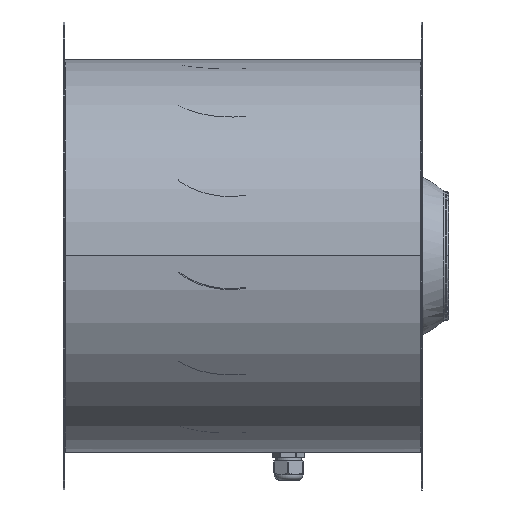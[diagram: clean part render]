
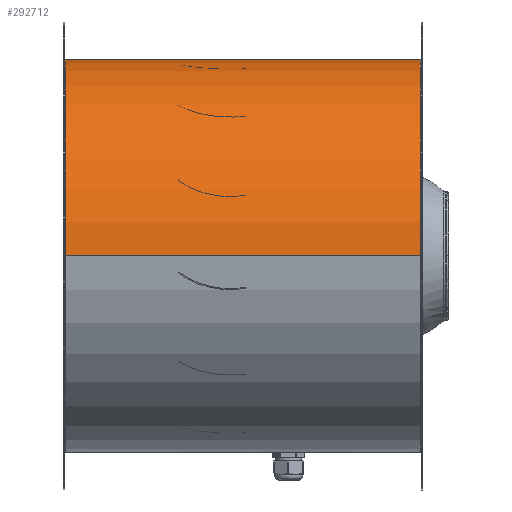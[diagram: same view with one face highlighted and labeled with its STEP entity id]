
A CAD part, top view. The second image highlights one B-rep face of the part: STEP entity #292712.
In plain terms, the highlighted cylindrical face has radius 201.25 mm (diameter 402.5 mm), a partial arc.
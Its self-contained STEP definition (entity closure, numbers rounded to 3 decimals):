
#8745 = EDGE_LOOP ( 'NONE', ( #223372, #338100, #435694, #412547, #594606, #345374, #470777, #426603, #289268, #573864 ) ) ;
#14220 = CARTESIAN_POINT ( 'NONE',  ( -98.5, 3.019, -201.227 ) ) ;
#18877 = CARTESIAN_POINT ( 'NONE',  ( -99.125, 0., -201.25 ) ) ;
#19138 = EDGE_CURVE ( 'NONE', #139866, #36203, #696115, .T. ) ;
#36203 = VERTEX_POINT ( 'NONE', #848797 ) ;
#68198 = CIRCLE ( 'NONE', #77120, 201.25 ) ;
#77120 = AXIS2_PLACEMENT_3D ( 'NONE', #772894, #373667, #839888 ) ;
#84371 = CIRCLE ( 'NONE', #365625, 201.25 ) ;
#96993 = EDGE_CURVE ( 'NONE', #790134, #639689, #148762, .T. ) ;
#109915 = CIRCLE ( 'NONE', #571172, 201.25 ) ;
#110140 = VERTEX_POINT ( 'NONE', #662858 ) ;
#112498 = LINE ( 'NONE', #779842, #289761 ) ;
#118251 = EDGE_CURVE ( 'NONE', #273230, #747288, #84371, .T. ) ;
#120687 = VECTOR ( 'NONE', #861806, 1000. ) ;
#123584 = LINE ( 'NONE', #14220, #811772 ) ;
#127734 = VECTOR ( 'NONE', #261488, 1000. ) ;
#139866 = VERTEX_POINT ( 'NONE', #526666 ) ;
#141990 = CYLINDRICAL_SURFACE ( 'NONE', #521483, 201.25 ) ;
#147607 = DIRECTION ( 'NONE',  ( 1., 0., 0. ) ) ;
#148762 = LINE ( 'NONE', #727717, #127734 ) ;
#158851 = CARTESIAN_POINT ( 'NONE',  ( -98.5, 0., 0. ) ) ;
#159038 = AXIS2_PLACEMENT_3D ( 'NONE', #546750, #147607, #613778 ) ;
#164858 = DIRECTION ( 'NONE',  ( 1., 0., 0. ) ) ;
#173852 = EDGE_CURVE ( 'NONE', #223516, #110140, #475205, .T. ) ;
#196122 = EDGE_CURVE ( 'NONE', #790134, #273230, #68198, .T. ) ;
#208439 = CARTESIAN_POINT ( 'NONE',  ( 265.125, 0., -201.25 ) ) ;
#215259 = DIRECTION ( 'NONE',  ( 1., 0., 0. ) ) ;
#215690 = AXIS2_PLACEMENT_3D ( 'NONE', #563983, #164858, #631013 ) ;
#216965 = DIRECTION ( 'NONE',  ( 1., 0., 0. ) ) ;
#219722 = DIRECTION ( 'NONE',  ( 1., 0., 0. ) ) ;
#223372 = ORIENTED_EDGE ( 'NONE', *, *, #497925, .F. ) ;
#223516 = VERTEX_POINT ( 'NONE', #791103 ) ;
#260077 = CARTESIAN_POINT ( 'NONE',  ( 264.5, 0., 0. ) ) ;
#261488 = DIRECTION ( 'NONE',  ( 1., 0., 0. ) ) ;
#273230 = VERTEX_POINT ( 'NONE', #327664 ) ;
#289268 = ORIENTED_EDGE ( 'NONE', *, *, #311314, .F. ) ;
#289761 = VECTOR ( 'NONE', #380597, 1000. ) ;
#292712 = ADVANCED_FACE ( 'NONE', ( #340127 ), #141990, .T. ) ;
#311314 = EDGE_CURVE ( 'NONE', #36203, #619854, #590185, .T. ) ;
#327076 = DIRECTION ( 'NONE',  ( 0., 0., 1. ) ) ;
#327664 = CARTESIAN_POINT ( 'NONE',  ( 264.5, 3., -201.228 ) ) ;
#338100 = ORIENTED_EDGE ( 'NONE', *, *, #503571, .T. ) ;
#340127 = FACE_OUTER_BOUND ( 'NONE', #8745, .T. ) ;
#345374 = ORIENTED_EDGE ( 'NONE', *, *, #196122, .T. ) ;
#365625 = AXIS2_PLACEMENT_3D ( 'NONE', #260077, #726310, #327076 ) ;
#373667 = DIRECTION ( 'NONE',  ( 1., 0., 0. ) ) ;
#380597 = DIRECTION ( 'NONE',  ( 1., 0., 0. ) ) ;
#412547 = ORIENTED_EDGE ( 'NONE', *, *, #688697, .F. ) ;
#426603 = ORIENTED_EDGE ( 'NONE', *, *, #784770, .F. ) ;
#435694 = ORIENTED_EDGE ( 'NONE', *, *, #173852, .T. ) ;
#470777 = ORIENTED_EDGE ( 'NONE', *, *, #118251, .T. ) ;
#475205 = LINE ( 'NONE', #727795, #120687 ) ;
#491125 = CARTESIAN_POINT ( 'NONE',  ( 264.5, 3.019, -201.227 ) ) ;
#497925 = EDGE_CURVE ( 'NONE', #642280, #139866, #112498, .T. ) ;
#503571 = EDGE_CURVE ( 'NONE', #642280, #223516, #789752, .T. ) ;
#521483 = AXIS2_PLACEMENT_3D ( 'NONE', #158851, #557984, #823212 ) ;
#526666 = CARTESIAN_POINT ( 'NONE',  ( -98.5, 0., -201.25 ) ) ;
#546750 = CARTESIAN_POINT ( 'NONE',  ( -98.5, 0., 0. ) ) ;
#557984 = DIRECTION ( 'NONE',  ( 1., 0., 0. ) ) ;
#563983 = CARTESIAN_POINT ( 'NONE',  ( -98.5, 0., 0. ) ) ;
#571172 = AXIS2_PLACEMENT_3D ( 'NONE', #618924, #219722, #685963 ) ;
#573864 = ORIENTED_EDGE ( 'NONE', *, *, #19138, .F. ) ;
#590185 = CIRCLE ( 'NONE', #159038, 201.25 ) ;
#594606 = ORIENTED_EDGE ( 'NONE', *, *, #96993, .F. ) ;
#613778 = DIRECTION ( 'NONE',  ( 0., 0., 1. ) ) ;
#616165 = CARTESIAN_POINT ( 'NONE',  ( -99.125, 0., 0. ) ) ;
#618924 = CARTESIAN_POINT ( 'NONE',  ( 265.125, 0., 0. ) ) ;
#619854 = VERTEX_POINT ( 'NONE', #723970 ) ;
#631013 = DIRECTION ( 'NONE',  ( 0., 0., 1. ) ) ;
#639689 = VERTEX_POINT ( 'NONE', #208439 ) ;
#642280 = VERTEX_POINT ( 'NONE', #18877 ) ;
#662858 = CARTESIAN_POINT ( 'NONE',  ( 265.125, 0., 201.25 ) ) ;
#683210 = DIRECTION ( 'NONE',  ( 0., 0., 1. ) ) ;
#685963 = DIRECTION ( 'NONE',  ( 0., 0., 1. ) ) ;
#688697 = EDGE_CURVE ( 'NONE', #639689, #110140, #109915, .T. ) ;
#696115 = CIRCLE ( 'NONE', #215690, 201.25 ) ;
#723970 = CARTESIAN_POINT ( 'NONE',  ( -98.5, 3.019, -201.227 ) ) ;
#724454 = CARTESIAN_POINT ( 'NONE',  ( 264.5, 0., -201.25 ) ) ;
#726310 = DIRECTION ( 'NONE',  ( 1., 0., 0. ) ) ;
#727717 = CARTESIAN_POINT ( 'NONE',  ( -98.5, 0., -201.25 ) ) ;
#727795 = CARTESIAN_POINT ( 'NONE',  ( -98.5, 0., 201.25 ) ) ;
#747288 = VERTEX_POINT ( 'NONE', #491125 ) ;
#772894 = CARTESIAN_POINT ( 'NONE',  ( 264.5, 0., 0. ) ) ;
#777839 = AXIS2_PLACEMENT_3D ( 'NONE', #616165, #216965, #683210 ) ;
#779842 = CARTESIAN_POINT ( 'NONE',  ( -98.5, 0., -201.25 ) ) ;
#784770 = EDGE_CURVE ( 'NONE', #619854, #747288, #123584, .T. ) ;
#789752 = CIRCLE ( 'NONE', #777839, 201.25 ) ;
#790134 = VERTEX_POINT ( 'NONE', #724454 ) ;
#791103 = CARTESIAN_POINT ( 'NONE',  ( -99.125, 0., 201.25 ) ) ;
#811772 = VECTOR ( 'NONE', #215259, 1000. ) ;
#823212 = DIRECTION ( 'NONE',  ( 0., 0., 1. ) ) ;
#839888 = DIRECTION ( 'NONE',  ( 0., 0., 1. ) ) ;
#848797 = CARTESIAN_POINT ( 'NONE',  ( -98.5, 3., -201.228 ) ) ;
#861806 = DIRECTION ( 'NONE',  ( 1., 0., 0. ) ) ;
